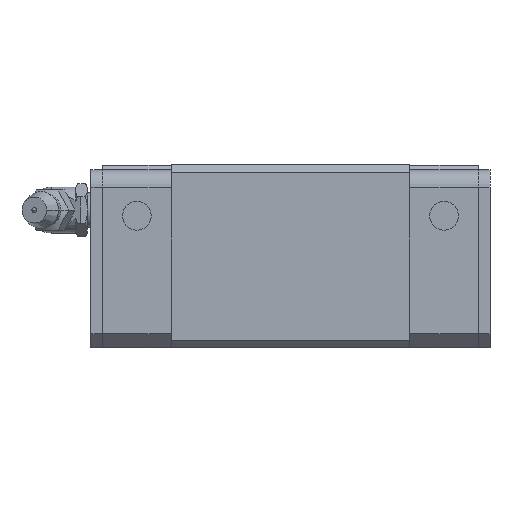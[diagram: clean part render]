
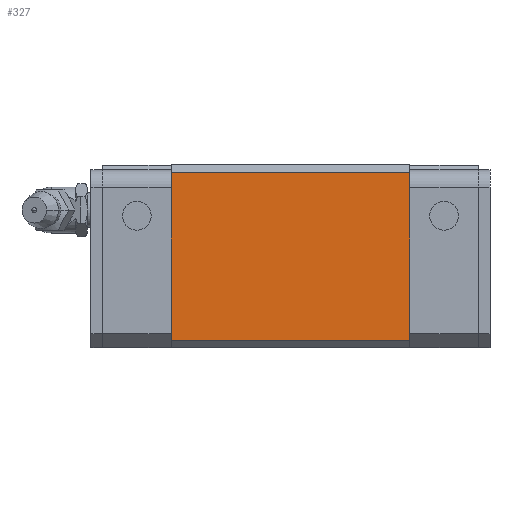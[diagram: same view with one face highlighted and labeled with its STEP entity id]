
A CAD part, front view. The second image highlights one B-rep face of the part: STEP entity #327.
In plain terms, the highlighted planar face has unit normal (0, -1, 0).
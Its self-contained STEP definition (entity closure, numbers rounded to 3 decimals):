
#266=CARTESIAN_POINT('POINT18',(55.5,-30.,
   1.3));
#267=VERTEX_POINT('VERTEX18',#266);
#274=CARTESIAN_POINT('POINT19',(14.,-30.,
   1.3));
#275=VERTEX_POINT('VERTEX19',#274);
#276=CARTESIAN_POINT('POS29',(14.,-30.,
   1.3));
#277=DIRECTION('DIR42',(1.,0.,0.));
#278=VECTOR('VEC16',#277,1.);
#279=LINE('STRAIGHT16',#276,#278);
#280=EDGE_CURVE('EDGE28',#275,#267,#279,.T.);
#297=CARTESIAN_POINT('POINT20',(55.5,-30.,
   30.5));
#298=VERTEX_POINT('VERTEX20',#297);
#299=CARTESIAN_POINT('POS32',(55.5,-30.,
   1.3));
#300=DIRECTION('DIR46',(0.,0.,
   1.));
#301=VECTOR('VEC18',#300,1.);
#302=LINE('STRAIGHT18',#299,#301);
#303=EDGE_CURVE('EDGE30',#267,#298,#302,.T.);
#304=ORIENTED_EDGE('COEDGE51',*,*,#303,.T.);
#305=CARTESIAN_POINT('POINT21',(14.,-30.,
   30.5));
#306=VERTEX_POINT('VERTEX21',#305);
#307=CARTESIAN_POINT('POS33',(14.,-30.,
   30.5));
#308=DIRECTION('DIR47',(1.,0.,0.));
#309=VECTOR('VEC19',#308,1.);
#310=LINE('STRAIGHT19',#307,#309);
#311=EDGE_CURVE('EDGE31',#306,#298,#310,.T.);
#312=ORIENTED_EDGE('COEDGE52',*,*,#311,.F.);
#313=CARTESIAN_POINT('POS34',(14.,-30.,
   1.3));
#314=DIRECTION('DIR48',(0.,0.,
   1.));
#315=VECTOR('VEC20',#314,1.);
#316=LINE('STRAIGHT20',#313,#315);
#317=EDGE_CURVE('EDGE32',#275,#306,#316,.T.);
#318=ORIENTED_EDGE('COEDGE53',*,*,#317,.F.);
#319=ORIENTED_EDGE('COEDGE54',*,*,#280,.T.);
#320=EDGE_LOOP('NONE',(#304,#312,#318,#319));
#321=FACE_BOUND('LOOP1',#320,.T.);
#322=CARTESIAN_POINT('POS35',(14.,-30.,
   1.3));
#323=DIRECTION('DIR49',(0.,-1.,
   0.));
#324=DIRECTION('DIR50',(1.,0.,0.));
#325=AXIS2_PLACEMENT_3D('AXIS15',#322,#323,#324);
#326=PLANE('PLANE4',#325);
#327=ADVANCED_FACE('FACE14',(#321),#326,.T.);
